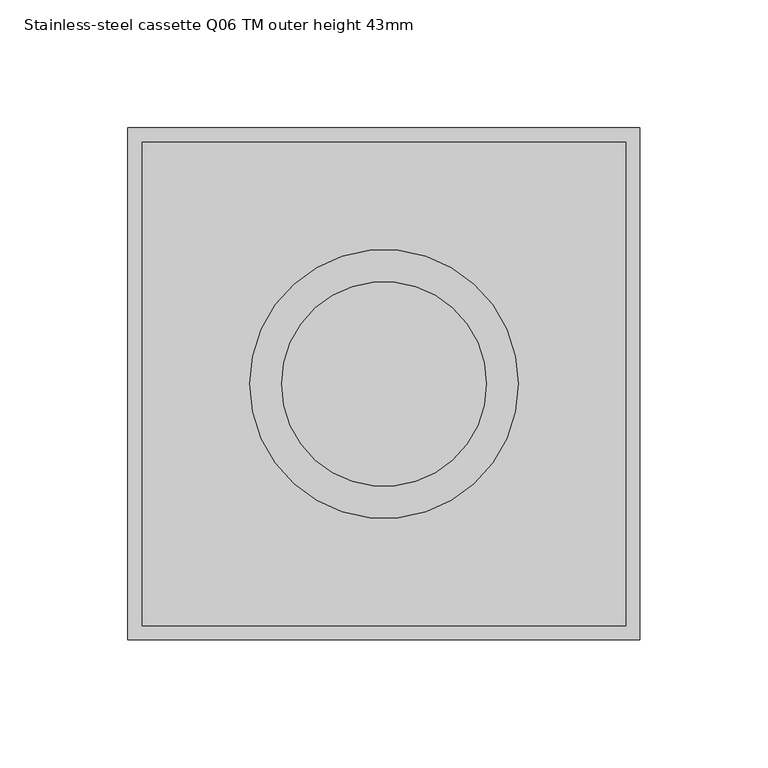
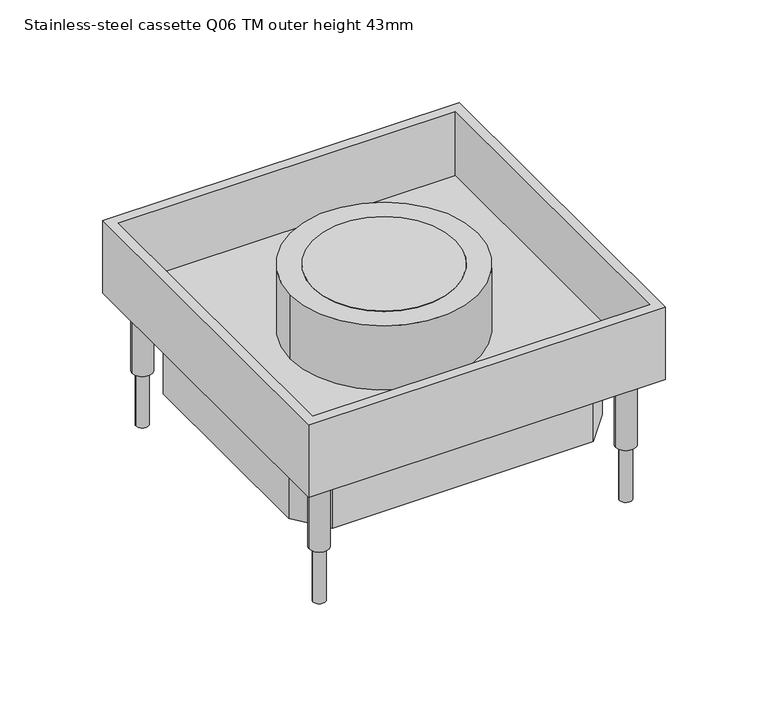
"""IFC4 building model written with IfcOpenShell, lengths in millimetres: proxy geometry, Electrical_Installation_Hager_VE-EE_EKQ-Height-adjustable-stainless-steel-cassette-with-tube-mounting-set-square-for-damp-cleaned-floors : Stainless-steel cassette Q06 TM outer height 43mm."""

from ifc_helpers import new_model, si_unit, point, frame, frame_2d, origin, origin_with_axes, origin_2d, place, context, project, spatial, polyline, circle_curve, trimmed, segment, composite_curve, outline, extrude, source, transform, mapped, element, save


def stainless_steel_cassette_q06_tm_outer_height_43mm_c42f4f61(model_context):
    return source(origin(), model_context, "Body", "SweptSolid", [
        extrude(outline(composite_curve([segment(trimmed(circle_curve(origin_2d(), 40.0), [point((-40.0, 0.0))], [point((40.0, 0.0))], False, "CARTESIAN"), True, "CONTINUOUS"), segment(trimmed(circle_curve(origin_2d(), 40.0), [point((40.0, 0.0))], [point((-40.0, 0.0))], False, "CARTESIAN"), True, "CONTINUOUS")], self_intersect=False)), origin_with_axes(), (0.0, 0.0, 1.0), 2.0),
        extrude(outline(composite_curve([segment(trimmed(circle_curve(origin_2d(), 52.5), [point((-52.5, 0.0))], [point((52.5, 0.0))], False, "CARTESIAN"), True, "CONTINUOUS"), segment(trimmed(circle_curve(origin_2d(), 52.5), [point((52.5, 0.0))], [point((-52.5, 0.0))], False, "CARTESIAN"), True, "CONTINUOUS")], self_intersect=False), holes=[composite_curve([segment(trimmed(circle_curve(origin_2d(), 40.0), [point((40.0, 0.0))], [point((-40.0, 0.0))], True, "CARTESIAN"), True, "CONTINUOUS"), segment(trimmed(circle_curve(origin_2d(), 40.0), [point((-40.0, 0.0))], [point((40.0, 0.0))], True, "CARTESIAN"), True, "CONTINUOUS")], self_intersect=False)]), frame((0.0, 0.0, -36.0), z_axis=(0.0, 0.0, 1.0), x_axis=(1.0, 0.0, 0.0)), (0.0, 0.0, 1.0), 38.0),
        extrude(outline(composite_curve([segment(trimmed(circle_curve(frame_2d((-86.0, 86.0)), 3.5), [point((-89.5, 86.0))], [point((-82.5, 86.0))], False, "CARTESIAN"), True, "CONTINUOUS"), segment(trimmed(circle_curve(frame_2d((-86.0, 86.0)), 3.5), [point((-82.5, 86.0))], [point((-89.5, 86.0))], False, "CARTESIAN"), True, "CONTINUOUS")], self_intersect=False)), frame((0.0, 0.0, -115.0), z_axis=(0.0, 0.0, 1.0), x_axis=(1.0, 0.0, 0.0)), (0.0, 0.0, 1.0), 32.0011554),
        extrude(outline(composite_curve([segment(trimmed(circle_curve(frame_2d((86.0, 86.0)), 3.5), [point((82.5, 86.0))], [point((89.5, 86.0))], False, "CARTESIAN"), True, "CONTINUOUS"), segment(trimmed(circle_curve(frame_2d((86.0, 86.0)), 3.5), [point((89.5, 86.0))], [point((82.5, 86.0))], False, "CARTESIAN"), True, "CONTINUOUS")], self_intersect=False)), frame((0.0, 0.0, -115.0), z_axis=(0.0, 0.0, 1.0), x_axis=(1.0, 0.0, 0.0)), (0.0, 0.0, 1.0), 32.0011554),
        extrude(outline(composite_curve([segment(trimmed(circle_curve(frame_2d((86.0, -86.0)), 3.523354), [point((82.476646, -86.0))], [point((89.523354, -86.0))], False, "CARTESIAN"), True, "CONTINUOUS"), segment(trimmed(circle_curve(frame_2d((86.0, -86.0)), 3.523354), [point((89.523354, -86.0))], [point((82.476646, -86.0))], False, "CARTESIAN"), True, "CONTINUOUS")], self_intersect=False)), frame((0.0, 0.0, -115.0), z_axis=(0.0, 0.0, 1.0), x_axis=(1.0, 0.0, 0.0)), (0.0, 0.0, 1.0), 32.0011554),
        extrude(outline(composite_curve([segment(trimmed(circle_curve(frame_2d((-86.0, -86.0)), 3.5), [point((-89.5, -86.0))], [point((-82.5, -86.0))], False, "CARTESIAN"), True, "CONTINUOUS"), segment(trimmed(circle_curve(frame_2d((-86.0, -86.0)), 3.5), [point((-82.5, -86.0))], [point((-89.5, -86.0))], False, "CARTESIAN"), True, "CONTINUOUS")], self_intersect=False)), frame((0.0, 0.0, -115.0), z_axis=(0.0, 0.0, 1.0), x_axis=(1.0, 0.0, 0.0)), (0.0, 0.0, 1.0), 32.0011554),
        extrude(outline(polyline([(4.7, 77.5), (73.3639966, 77.5), (88.0, 60.5470649), (88.0, -59.6394213), (72.7984665, -77.5), (-73.867755, -77.5), (-88.0, -59.6801256), (-88.0, 62.043544), (-73.6272863, 77.5), (4.7, 77.5)]), holes=[polyline([(-85.0, 60.8642535), (-85.0, -58.634929), (-72.4180331, -74.5), (71.4123304, -74.5), (85.0, -58.5355815), (85.0, 59.4312235), (71.9906502, 74.5), (4.7, 74.5), (-72.3203352, 74.5), (-85.0, 60.8642535)])]), frame((0.0, 0.0, -82.0), z_axis=(0.0, 0.0, 1.0), x_axis=(1.0, 0.0, 0.0)), (0.0, 0.0, 1.0), 41.0),
        extrude(outline(polyline([(94.5, 94.5), (94.5, -94.5), (-94.5, -94.5), (-94.5, 94.5), (94.5, 94.5)]), holes=[composite_curve([segment(trimmed(circle_curve(origin_2d(), 40.0), [point((-40.0, 0.0))], [point((40.0, 0.0))], True, "CARTESIAN"), True, "CONTINUOUS"), segment(trimmed(circle_curve(origin_2d(), 40.0), [point((40.0, 0.0))], [point((-40.0, 0.0))], True, "CARTESIAN"), True, "CONTINUOUS")], self_intersect=False)]), frame((0.0, 0.0, -41.0), z_axis=(0.0, 0.0, 1.0), x_axis=(1.0, 0.0, 0.0)), (0.0, 0.0, 1.0), 5.0),
        extrude(outline(composite_curve([segment(trimmed(circle_curve(frame_2d((-86.0, 86.0)), 5.5), [point((-91.5, 86.0))], [point((-80.5, 86.0))], False, "CARTESIAN"), True, "CONTINUOUS"), segment(trimmed(circle_curve(frame_2d((-86.0, 86.0)), 5.5), [point((-80.5, 86.0))], [point((-91.5, 86.0))], False, "CARTESIAN"), True, "CONTINUOUS")], self_intersect=False)), frame((0.0, 0.0, -82.9988446), z_axis=(0.0, 0.0, 1.0), x_axis=(1.0, 0.0, 0.0)), (0.0, 0.0, 1.0), 41.9988446),
        extrude(outline(composite_curve([segment(trimmed(circle_curve(frame_2d((86.0, 86.0)), 5.5), [point((80.5, 86.0))], [point((91.5, 86.0))], False, "CARTESIAN"), True, "CONTINUOUS"), segment(trimmed(circle_curve(frame_2d((86.0, 86.0)), 5.5), [point((91.5, 86.0))], [point((80.5, 86.0))], False, "CARTESIAN"), True, "CONTINUOUS")], self_intersect=False)), frame((0.0, 0.0, -82.9988446), z_axis=(0.0, 0.0, 1.0), x_axis=(1.0, 0.0, 0.0)), (0.0, 0.0, 1.0), 41.9988446),
        extrude(outline(composite_curve([segment(trimmed(circle_curve(frame_2d((-86.0, -86.0)), 5.5), [point((-91.5, -86.0))], [point((-80.5, -86.0))], False, "CARTESIAN"), True, "CONTINUOUS"), segment(trimmed(circle_curve(frame_2d((-86.0, -86.0)), 5.5), [point((-80.5, -86.0))], [point((-91.5, -86.0))], False, "CARTESIAN"), True, "CONTINUOUS")], self_intersect=False)), frame((0.0, 0.0, -82.9988446), z_axis=(0.0, 0.0, 1.0), x_axis=(1.0, 0.0, 0.0)), (0.0, 0.0, 1.0), 41.9988446),
        extrude(outline(composite_curve([segment(trimmed(circle_curve(frame_2d((86.0, -86.0)), 5.5), [point((80.5, -86.0))], [point((91.5, -86.0))], False, "CARTESIAN"), True, "CONTINUOUS"), segment(trimmed(circle_curve(frame_2d((86.0, -86.0)), 5.5), [point((91.5, -86.0))], [point((80.5, -86.0))], False, "CARTESIAN"), True, "CONTINUOUS")], self_intersect=False)), frame((0.0, 0.0, -82.9988446), z_axis=(0.0, 0.0, 1.0), x_axis=(1.0, 0.0, 0.0)), (0.0, 0.0, 1.0), 41.9988446),
        extrude(outline(polyline([(100.0, 100.0), (100.0, -100.0), (-100.0, -100.0), (-100.0, 100.0), (100.0, 100.0)]), holes=[polyline([(94.5, 94.5), (-94.5, 94.5), (-94.5, -94.5), (94.5, -94.5), (94.5, 94.5)])]), frame((0.0, 0.0, -41.0), z_axis=(0.0, 0.0, 1.0), x_axis=(1.0, 0.0, 0.0)), (0.0, 0.0, 1.0), 43.0),
    ])


if __name__ == "__main__":
    model = new_model("IFC4")
    model_context = context("Model", 3, world=origin())
    ifc_project = project(units=[si_unit("LENGTHUNIT", "METRE", prefix="MILLI")], contexts=[model_context])
    site = spatial("IfcSite", under=ifc_project)
    building = spatial("IfcBuilding", under=site)
    placement = place(None, origin())
    stainless_steel_cassette_q06_tm_outer_height_43mm_shape = stainless_steel_cassette_q06_tm_outer_height_43mm_c42f4f61(model_context)
    element("IfcBuildingElementProxy", 1, Name="Electrical_Installation_Hager_VE-EE_EKQ-Height-adjustable-stainless-steel-cassette-with-tube-mounting-set-square-for-damp-cleaned-floors : Stainless-steel cassette Q06 TM outer height 43mm", ObjectType="Electrical_Installation_Hager_VE-EE_EKQ-Height-adjustable-stainless-steel-cassette-with-tube-mounting-set-square-for-damp-cleaned-floors : Stainless-steel cassette Q06 TM outer height 43mm", at=placement, inside=building, context=model_context, shape_type="MappedRepresentation", body=[
        mapped(stainless_steel_cassette_q06_tm_outer_height_43mm_shape, transform((0.0, 0.0, 0.0), x_axis=(1.0, 0.0, 0.0), y_axis=(0.0, 1.0, 0.0), z_axis=(0.0, 0.0, 1.0))),
    ])
    save(model, "model.ifc")
